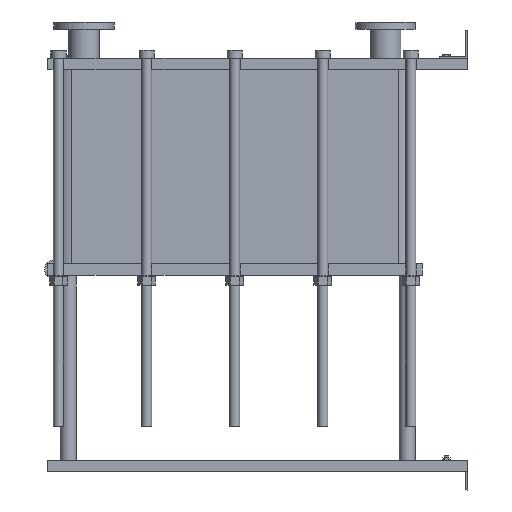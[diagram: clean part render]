
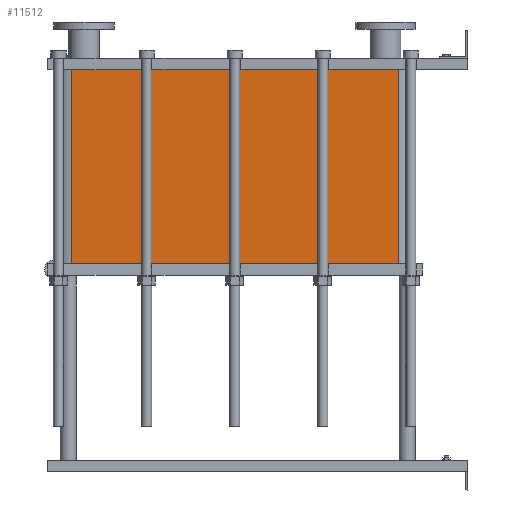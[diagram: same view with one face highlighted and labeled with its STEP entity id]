
A CAD part, left-side view. The second image highlights one B-rep face of the part: STEP entity #11512.
In plain terms, the highlighted planar face has unit normal (-1, 0, 0).
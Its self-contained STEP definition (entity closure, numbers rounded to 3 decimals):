
#1129=LINE('',#23232,#2102);
#1130=LINE('',#23236,#2103);
#1131=LINE('',#23238,#2104);
#1132=LINE('',#23239,#2105);
#2102=VECTOR('',#15887,10.);
#2103=VECTOR('',#15892,10.);
#2104=VECTOR('',#15893,10.);
#2105=VECTOR('',#15894,10.);
#3267=FACE_OUTER_BOUND('',#4093,.T.);
#4093=EDGE_LOOP('',(#10103,#10104,#10105,#10106));
#5642=VERTEX_POINT('',#23229);
#5643=VERTEX_POINT('',#23231);
#5644=VERTEX_POINT('',#23235);
#5645=VERTEX_POINT('',#23237);
#7159=EDGE_CURVE('',#5643,#5642,#1129,.T.);
#7161=EDGE_CURVE('',#5642,#5644,#1130,.T.);
#7162=EDGE_CURVE('',#5645,#5644,#1131,.T.);
#7163=EDGE_CURVE('',#5645,#5643,#1132,.T.);
#10103=ORIENTED_EDGE('',*,*,#7161,.T.);
#10104=ORIENTED_EDGE('',*,*,#7162,.F.);
#10105=ORIENTED_EDGE('',*,*,#7163,.T.);
#10106=ORIENTED_EDGE('',*,*,#7159,.T.);
#10857=PLANE('',#12751);
#11512=ADVANCED_FACE('',(#3267),#10857,.T.);
#12751=AXIS2_PLACEMENT_3D('',#23234,#15890,#15891);
#15887=DIRECTION('',(0.,0.,-1.));
#15890=DIRECTION('center_axis',(-1.,0.,0.));
#15891=DIRECTION('ref_axis',(0.,1.,0.));
#15892=DIRECTION('',(0.,-1.,0.));
#15893=DIRECTION('',(0.,0.,-1.));
#15894=DIRECTION('',(0.,1.,0.));
#23229=CARTESIAN_POINT('',(-200.,1414.,-693.45));
#23231=CARTESIAN_POINT('',(-200.,1414.,0.));
#23232=CARTESIAN_POINT('',(-200.,1414.,0.));
#23234=CARTESIAN_POINT('Origin',(-200.,248.,0.));
#23235=CARTESIAN_POINT('',(-200.,248.,-693.45));
#23236=CARTESIAN_POINT('',(-200.,539.5,-693.45));
#23237=CARTESIAN_POINT('',(-200.,248.,0.));
#23238=CARTESIAN_POINT('',(-200.,248.,0.));
#23239=CARTESIAN_POINT('',(-200.,248.,0.));
